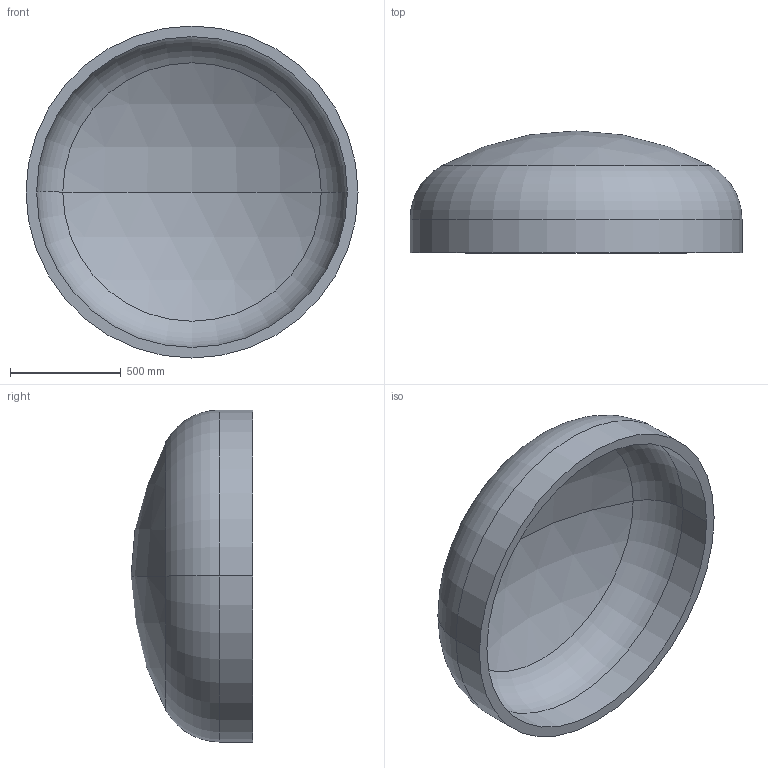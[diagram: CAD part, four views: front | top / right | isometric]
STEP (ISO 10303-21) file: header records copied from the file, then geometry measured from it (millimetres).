
FILE_DESCRIPTION (( 'STEP AP203' ), '1' );
FILE_NAME ('DIN 28013 Korbbogenform_-_Boden DIN 28013 - 1500 x 150 - I - s=48.step', '2016-07-01T10:48:22', ( '' ), ( '' ), 'SwSTEP 2.0', 'SolidWorks 2013', '' );
FILE_SCHEMA (( 'CONFIG_CONTROL_DESIGN' ));
Length unit declared in the file: millimetre
Products named in the file (1): DIN 28013 Korbbogenform_-_Boden DIN 28013 - 1500 x 150 - I - s=48
Bounding box: 1500 x 550.58 x 1500 mm (x, y, z)
Volume: 145421677 mm3; surface area: 6283016.8 mm2
Topology: 1 solids, 1 shells, 13 faces, 24 edges, 14 vertices
Faces by surface type: torus 4, cylinder 4, sphere 4, plane 1
Entity records: 407 total; most frequent: DIRECTION 72, CARTESIAN_POINT 52, ORIENTED_EDGE 48, AXIS2_PLACEMENT_3D 34, EDGE_CURVE 24, CIRCLE 20, EDGE_LOOP 14, VERTEX_POINT 14
